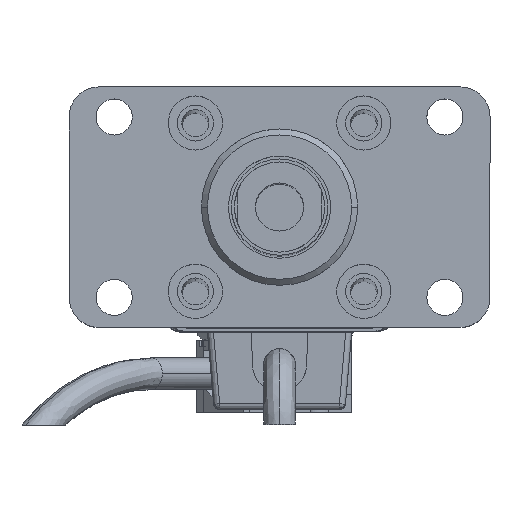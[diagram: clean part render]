
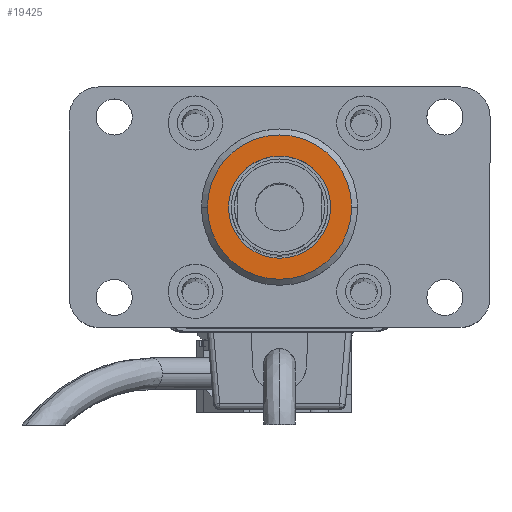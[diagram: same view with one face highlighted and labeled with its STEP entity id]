
A CAD part, top view. The second image highlights one B-rep face of the part: STEP entity #19425.
In plain terms, the highlighted planar face has unit normal (0, 0, 1) as drawn and (0, 0, -1) by its records, which use the part's own axes.
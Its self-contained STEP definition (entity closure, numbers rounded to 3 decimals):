
#9 = EDGE_CURVE ( 'NONE', #2826, #18156, #17277, .T. ) ;
#691 = ORIENTED_EDGE ( 'NONE', *, *, #24959, .T. ) ;
#736 = CIRCLE ( 'NONE', #15658, 8.5 ) ;
#1220 = DIRECTION ( 'NONE',  ( -1., 0., 0. ) ) ;
#2826 = VERTEX_POINT ( 'NONE', #28107 ) ;
#5428 = DIRECTION ( 'NONE',  ( 0., 0., -1. ) ) ;
#6325 = FACE_BOUND ( 'NONE', #24979, .T. ) ;
#6490 = DIRECTION ( 'NONE',  ( 0., 0., -1. ) ) ;
#6933 = ORIENTED_EDGE ( 'NONE', *, *, #14904, .F. ) ;
#7769 = CARTESIAN_POINT ( 'NONE',  ( 0., 0., -3. ) ) ;
#9697 = DIRECTION ( 'NONE',  ( -1., 0., 0. ) ) ;
#10895 = CIRCLE ( 'NONE', #11959, 12. ) ;
#11346 = CARTESIAN_POINT ( 'NONE',  ( -12., 0., -3. ) ) ;
#11959 = AXIS2_PLACEMENT_3D ( 'NONE', #26223, #23672, #25934 ) ;
#13640 = CARTESIAN_POINT ( 'NONE',  ( 0., 0., -3. ) ) ;
#14608 = DIRECTION ( 'NONE',  ( 0., 0., -1. ) ) ;
#14904 = EDGE_CURVE ( 'NONE', #18156, #2826, #736, .T. ) ;
#14910 = AXIS2_PLACEMENT_3D ( 'NONE', #27709, #14608, #1220 ) ;
#15074 = PLANE ( 'NONE',  #25780 ) ;
#15372 = ORIENTED_EDGE ( 'NONE', *, *, #20306, .T. ) ;
#15658 = AXIS2_PLACEMENT_3D ( 'NONE', #7769, #5428, #9697 ) ;
#16439 = VERTEX_POINT ( 'NONE', #11346 ) ;
#17073 = CARTESIAN_POINT ( 'NONE',  ( 0., 0., -3. ) ) ;
#17277 = CIRCLE ( 'NONE', #14910, 8.5 ) ;
#18156 = VERTEX_POINT ( 'NONE', #26436 ) ;
#19412 = VERTEX_POINT ( 'NONE', #28097 ) ;
#19425 = ADVANCED_FACE ( 'NONE', ( #26854, #6325 ), #15074, .T. ) ;
#19619 = CIRCLE ( 'NONE', #19743, 12. ) ;
#19743 = AXIS2_PLACEMENT_3D ( 'NONE', #13640, #24577, #24671 ) ;
#20306 = EDGE_CURVE ( 'NONE', #19412, #16439, #19619, .T. ) ;
#23483 = EDGE_LOOP ( 'NONE', ( #15372, #691 ) ) ;
#23672 = DIRECTION ( 'NONE',  ( 0., 0., -1. ) ) ;
#24577 = DIRECTION ( 'NONE',  ( 0., 0., -1. ) ) ;
#24671 = DIRECTION ( 'NONE',  ( -1., 0., 0. ) ) ;
#24959 = EDGE_CURVE ( 'NONE', #16439, #19412, #10895, .T. ) ;
#24979 = EDGE_LOOP ( 'NONE', ( #27136, #6933 ) ) ;
#25780 = AXIS2_PLACEMENT_3D ( 'NONE', #17073, #6490, #25971 ) ;
#25934 = DIRECTION ( 'NONE',  ( -1., 0., 0. ) ) ;
#25971 = DIRECTION ( 'NONE',  ( -1., 0., 0. ) ) ;
#26223 = CARTESIAN_POINT ( 'NONE',  ( 0., 0., -3. ) ) ;
#26436 = CARTESIAN_POINT ( 'NONE',  ( -8.5, 0., -3. ) ) ;
#26854 = FACE_OUTER_BOUND ( 'NONE', #23483, .T. ) ;
#27136 = ORIENTED_EDGE ( 'NONE', *, *, #9, .F. ) ;
#27709 = CARTESIAN_POINT ( 'NONE',  ( 0., 0., -3. ) ) ;
#28097 = CARTESIAN_POINT ( 'NONE',  ( 12., 0., -3. ) ) ;
#28107 = CARTESIAN_POINT ( 'NONE',  ( 8.5, 0., -3. ) ) ;
